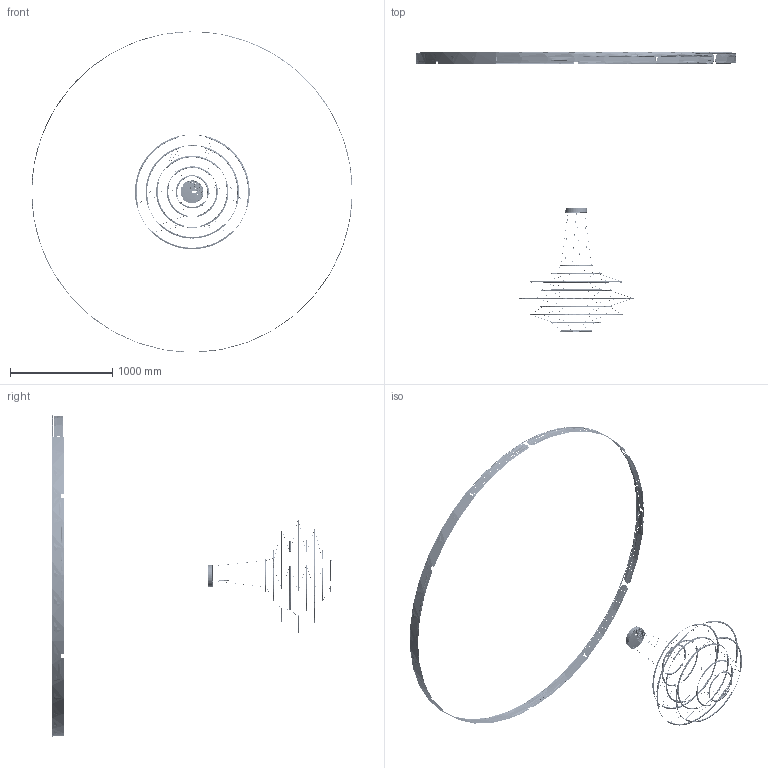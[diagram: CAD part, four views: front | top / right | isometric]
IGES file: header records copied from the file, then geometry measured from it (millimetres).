
Start section: SolidWorks IGES file using analytic representation for surfaces
Global section: file name: N:\- Ingeneria\SILHOUETTE\3D_UPLOAD -ZIP\PENDANT\3D_DROP\3d_drop.IGS; native system: SolidWorks 2016; preprocessor: SolidWorks 2016; author: BenedettoLiVolsi; date: 221021.114202; units: millimetre
Bounding box: 3135.31 x 2727.93 x 3137.4 mm (x, y, z)
Surface area: 3244543.5 mm2 (no closed solid volume)
Topology: 0 solids, 0 shells, 15844 faces, 163110 edges, 162476 vertices
Faces by surface type: bspline 9771, revolution 6073
